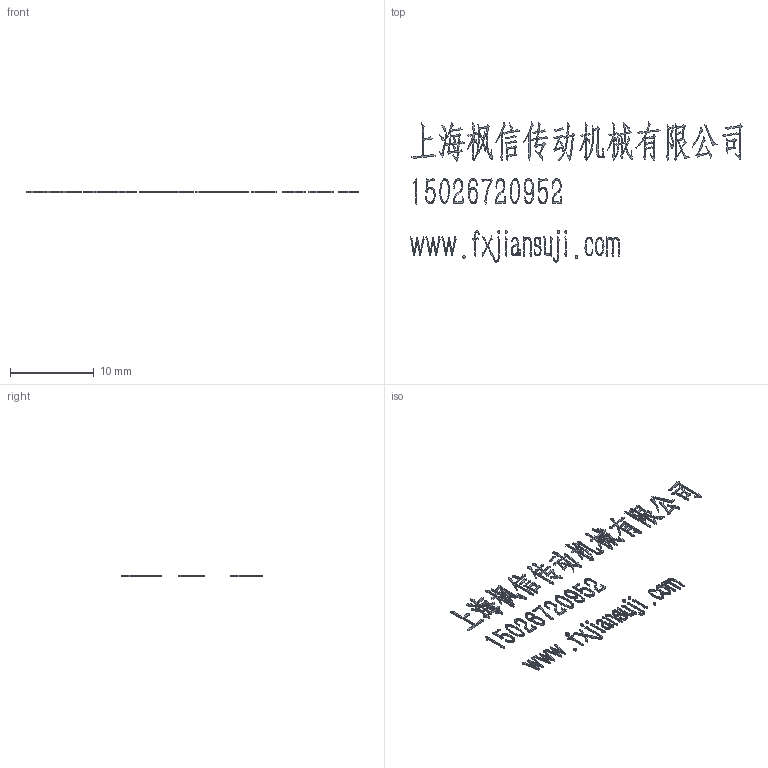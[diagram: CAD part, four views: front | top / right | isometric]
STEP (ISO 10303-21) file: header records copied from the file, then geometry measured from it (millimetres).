
FILE_DESCRIPTION (( 'STEP AP203' ), '1' );
FILE_NAME ('Áã¼þ28^FXLB055-(5~90)-AB-19-70-90-M6.STEP', '2022-11-06T02:01:36', ( '' ), ( '' ), 'SwSTEP 2.0', 'SolidWorks 2020', '' );
FILE_SCHEMA (( 'CONFIG_CONTROL_DESIGN' ));
Length unit declared in the file: millimetre
Products named in the file (1): 錨璃28^FXLB055-(5~90)-AB-19-70-90-M6
Bounding box: 39.67 x 16.74 x 0.2 mm (x, y, z)
Volume: 9.7 mm3; surface area: 239 mm2
Topology: 66 solids, 66 shells, 1653 faces, 4563 edges, 3042 vertices
Faces by surface type: plane 1081, bspline 572
Entity records: 75416 total; most frequent: CARTESIAN_POINT 37167, ORIENTED_EDGE 9126, DIRECTION 5583, EDGE_CURVE 4563, LINE 3419, VECTOR 3419, VERTEX_POINT 3042, EDGE_LOOP 1677
